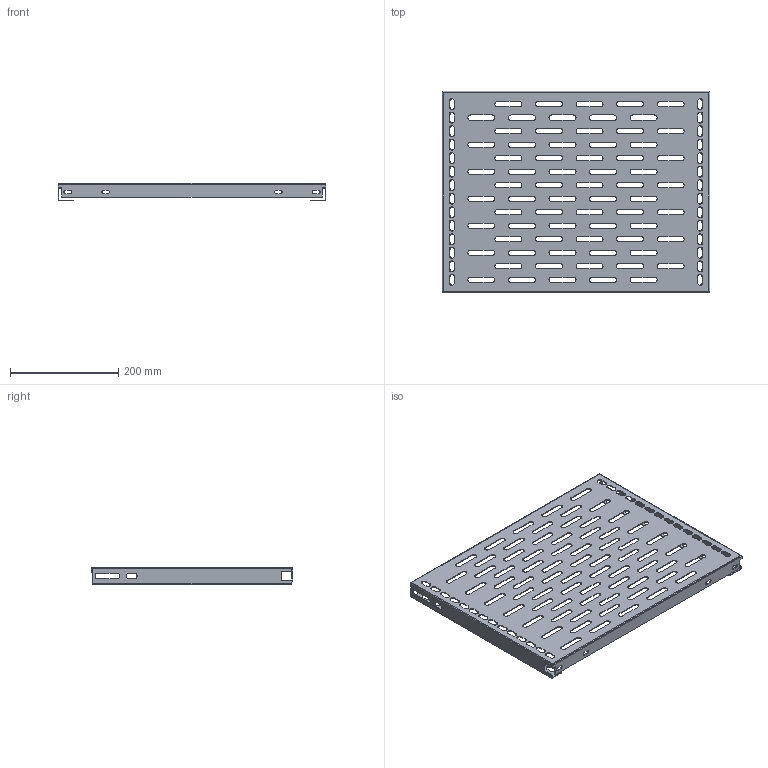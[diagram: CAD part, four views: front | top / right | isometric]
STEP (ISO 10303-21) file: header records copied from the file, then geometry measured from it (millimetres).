
FILE_DESCRIPTION (( 'STEP AP203' ), '1' );
FILE_NAME ('EUDO-060040.STEP', '2015-04-22T11:49:03', ( 'Admin' ), ( '' ), 'SwSTEP 2.0', 'SolidWorks 2014', '' );
FILE_SCHEMA (( 'CONFIG_CONTROL_DESIGN' ));
Length unit declared in the file: millimetre
Products named in the file (1): EUDO-060040
Bounding box: 496 x 373 x 33 mm (x, y, z)
Volume: 295524.6 mm3; surface area: 415608.5 mm2
Topology: 1 solids, 1 shells, 662 faces, 1968 edges, 1308 vertices
Faces by surface type: cylinder 352, plane 310
Entity records: 23005 total; most frequent: DIRECTION 3986, CARTESIAN_POINT 3951, ORIENTED_EDGE 3936, EDGE_CURVE 1968, AXIS2_PLACEMENT_3D 1359, VERTEX_POINT 1308, LINE 1268, VECTOR 1268
